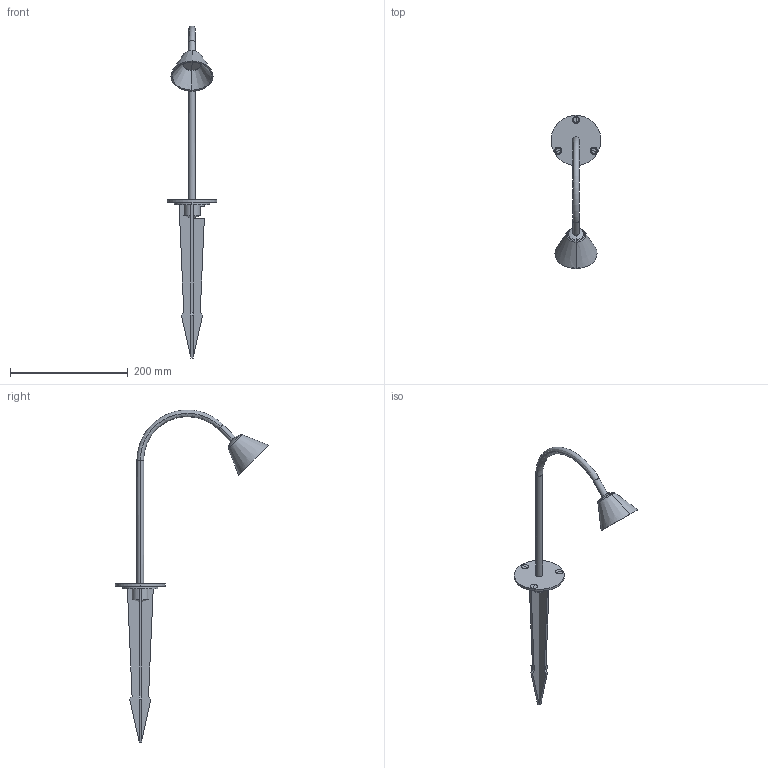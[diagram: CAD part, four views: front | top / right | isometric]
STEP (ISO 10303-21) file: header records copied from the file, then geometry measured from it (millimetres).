
FILE_DESCRIPTION(/* description */ (''),/* implementation_level */ '2;1');
FILE_NAME(/* name */ '75620-1.step',/* time_stamp */ '2024-09-26T16:43:51+02:00',/* author */ ('RenataManzini'),/* organization */ (''),/* preprocessor_version */ 'ST-DEVELOPER v20',/* originating_system */ 'AutoCAD Mechanical',/* authorisation */ '');
FILE_SCHEMA (('AUTOMOTIVE_DESIGN { 1 0 10303 214 3 1 1 }'));
Length unit declared in the file: millimetre
Products named in the file (2): Product; Lily_estaca_300 - pieza-742005-_3D_
Assembly tree (1 placements, depth 2):
  Product
    Lily_estaca_300 - pieza-742005-_3D_
Bounding box: 85 x 260.9 x 564.85 mm (x, y, z)
Volume: 202102.5 mm3; surface area: 91496.4 mm2
Topology: 10 solids, 10 shells, 108 faces, 209 edges, 123 vertices
Faces by surface type: plane 56, cylinder 26, cone 18, torus 6, bspline 2
Entity records: 2833 total; most frequent: CARTESIAN_POINT 580, DIRECTION 486, ORIENTED_EDGE 412, EDGE_CURVE 206, AXIS2_PLACEMENT_3D 182, LINE 122, VECTOR 122, VERTEX_POINT 118
